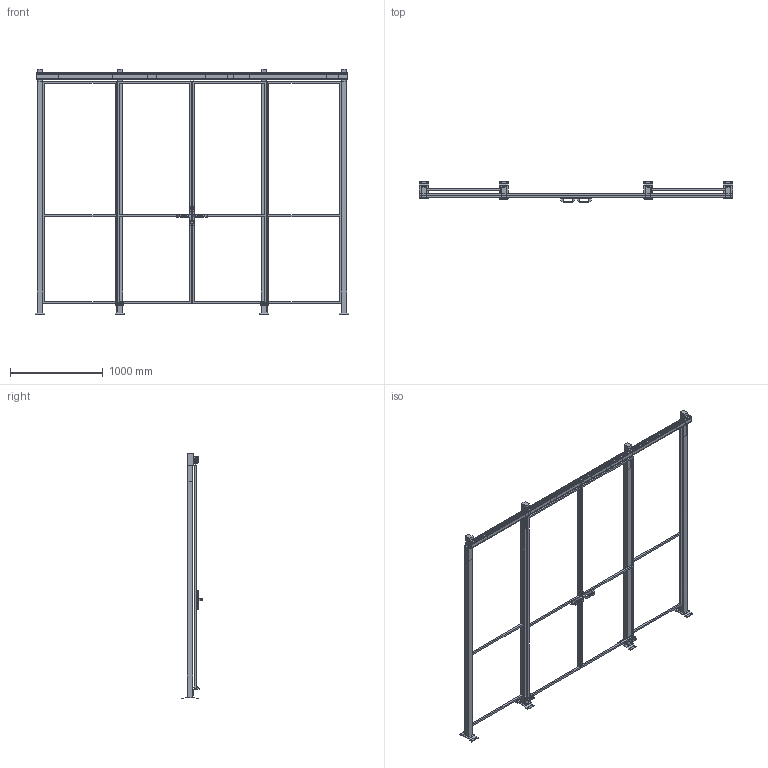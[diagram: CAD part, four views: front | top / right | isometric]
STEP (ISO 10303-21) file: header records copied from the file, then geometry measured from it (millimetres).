
FILE_DESCRIPTION(/* description */ (''),/* implementation_level */ '2;1');
FILE_NAME(/* name */ 'C:\SafeGuarding\ELABORATI\HOR§VED_2025-04-01-10-28-44.stp',/* time_stamp */ '2025-04-01T10:28:49+02:00',/* author */ ('admin'),/* organization */ (''),/* preprocessor_version */ 'ST-DEVELOPER v18.1',/* originating_system */ 'AutoCAD Mechanical',/* authorisation */ '');
FILE_SCHEMA (('AUTOMOTIVE_DESIGN { 1 0 10303 214 3 1 1 }'));
Length unit declared in the file: millimetre
Products named in the file (3): Product; VFPA.REPE2008002400; P_VFMA.V260SDU.2520
Assembly tree (8 placements, depth 2):
  Product
    VFPA.REPE2008002400  x4
    P_VFMA.V260SDU.2520  x4
Bounding box: 3379.99 x 235.91 x 2654 mm (x, y, z)
Volume: 63901952.6 mm3; surface area: 9405551.7 mm2
Topology: 42 solids, 64 shells, 630 faces, 2156 edges, 2052 vertices
Faces by surface type: plane 574, cylinder 56
Full cylindrical faces by diameter (mm): 11 x16, 12 x4, 14 x4, 15 x8, 40 x8
Entity records: 17427 total; most frequent: CARTESIAN_POINT 3617, ORIENTED_EDGE 2676, DIRECTION 2598, EDGE_CURVE 1436, LINE 1260, VECTOR 1260, VERTEX_POINT 1040, AXIS2_PLACEMENT_3D 669
